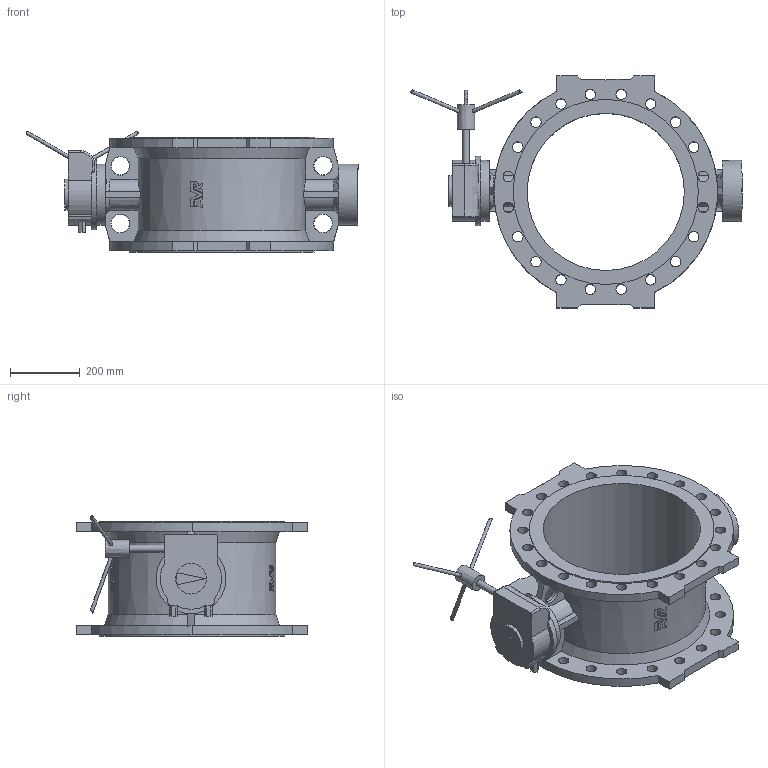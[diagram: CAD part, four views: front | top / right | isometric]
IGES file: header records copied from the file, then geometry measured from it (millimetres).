
Start section: SolidWorks IGES file using analytic representation for surfaces
Global section: file name: \\avksan2\techshare\PBM outline export from Enovia\O_756_1_DN450_0XX00_AA0_igs.igs; native system: SolidWorks 2012; preprocessor: SolidWorks 2012; author: pbm; date: 160304.124528; units: millimetre
Bounding box: 950.38 x 664 x 345.36 mm (x, y, z)
Surface area: 2002330.2 mm2 (no closed solid volume)
Topology: 0 solids, 0 shells, 374 faces, 3016 edges, 2907 vertices
Faces by surface type: bspline 253, revolution 121
